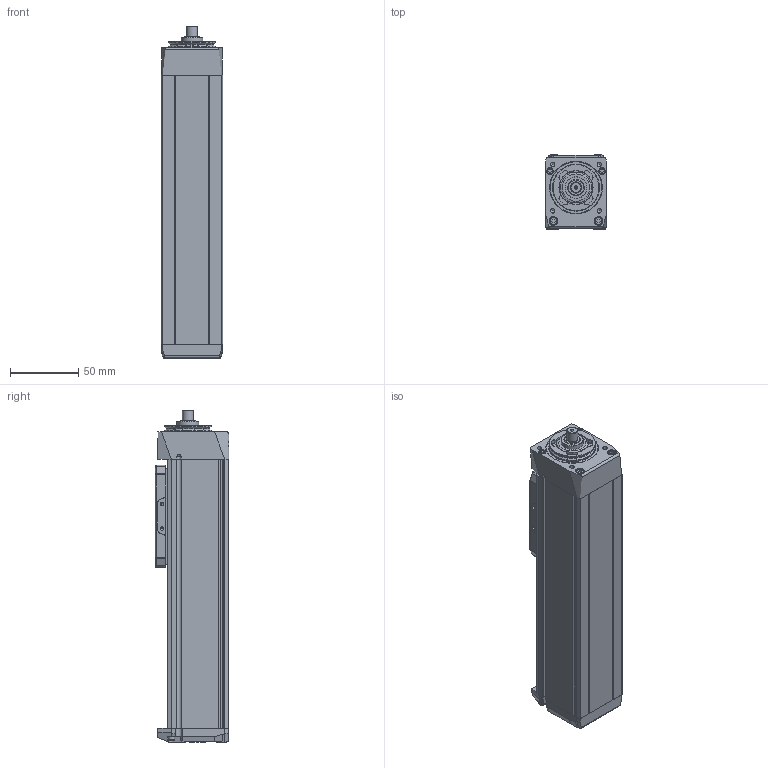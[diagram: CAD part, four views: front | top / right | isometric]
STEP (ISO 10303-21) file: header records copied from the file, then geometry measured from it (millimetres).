
FILE_DESCRIPTION(/* description */ ('STEP AP214'),/* implementation_level */ '2;1');
FILE_NAME(/* name */ 'MGBS 45 1003 100(0)',/* time_stamp */ '2023-04-12T11:04:37+02:00',/* author */ ('License CC BY-ND 4.0'),/* organization */ ('CADENAS'),/* preprocessor_version */ 'ST-DEVELOPER v19.3',/* originating_system */ 'PARTsolutions',/* authorisation */ ' ');
FILE_SCHEMA (('AUTOMOTIVE_DESIGN {1 0 10303 214 3 1 1}'));
Length unit declared in the file: millimetre
Products named in the file (6): MGBS 45 1003 100(0); MGBS 45 100_protection_strip; MGBS 45_carriage; MGBS 45_end_block; MGBS 45 100_profile; MGBS 45_drive_block
Assembly tree (5 placements, depth 2):
  MGBS 45 1003 100(0)
    MGBS 45 100_protection_strip
    MGBS 45_carriage
    MGBS 45_end_block
    MGBS 45 100_profile
    MGBS 45_drive_block
Bounding box: 45 x 54 x 243 mm (x, y, z)
Volume: 472584.3 mm3; surface area: 88488.6 mm2
Topology: 5 solids, 5 shells, 655 faces, 1721 edges, 1113 vertices
Faces by surface type: plane 312, cylinder 156, cone 94, bspline 64, torus 27, sphere 2
Full cylindrical faces by diameter (mm): 1 x1, 1.755 x4, 2.459 x6, 2.46 x2, 2.5 x8, 3 x4, 3.242 x8, 3.8 x6, 4 x2, 4.5 x4, 5 x2, 5.5 x4, 6.5 x4, 8 x1, 11 x2, 16 x1, 24.5 x1, 34 x2, 38.2 x1
Entity records: 23967 total; most frequent: CARTESIAN_POINT 4130, DIRECTION 3272, ORIENTED_EDGE 3064, EDGE_CURVE 1532, AXIS2_PLACEMENT_3D 1183, VERTEX_POINT 1095, LINE 906, VECTOR 906
